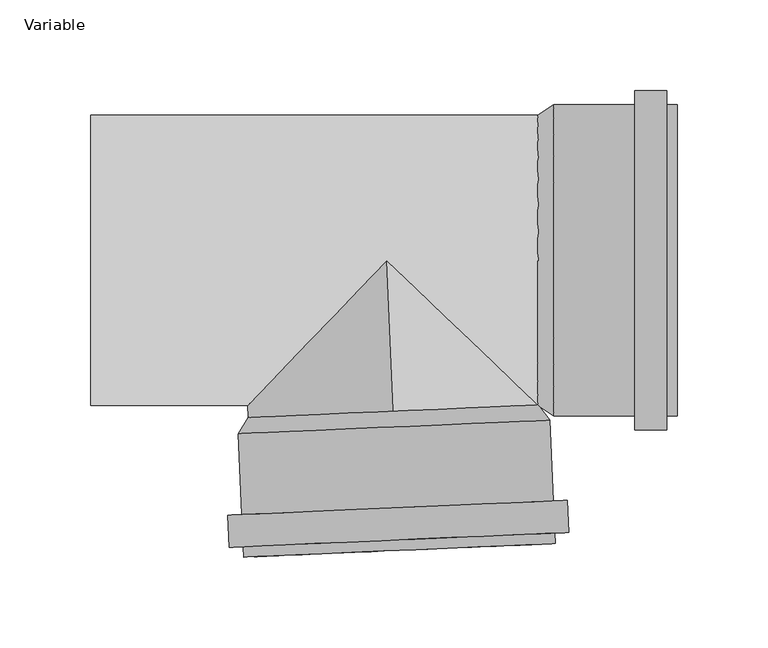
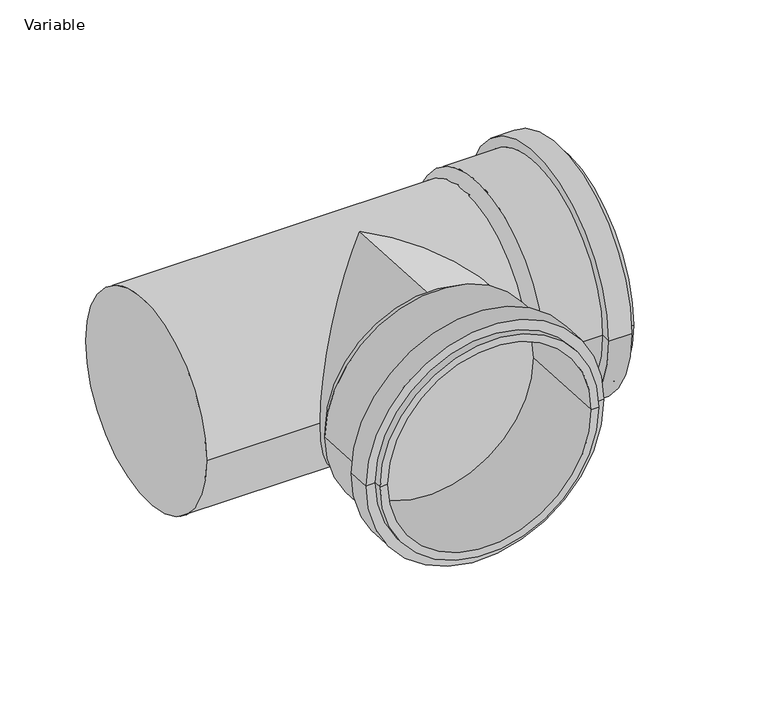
"""IFC4 building model written with IfcOpenShell, lengths in millimetres: pipe fitting geometry, AliaxisFR_Friaphon_Branch_FR : Variable."""

from ifc_helpers import new_model, si_unit, frame, origin, place, context, project, spatial, polyline, circle_curve, ellipse_curve, source, transform, mapped, element, save
from ifc_brep_helpers import plane_surface, cylinder_surface, revolved_surface, advanced_brep


def variable_c53f3fea(model_context):
    return source(origin(), model_context, "Body", "AdvancedBrep", [
        advanced_brep(
        [(-78.7392354, -163.5902589, 0.0), (92.6974394, -156.105172, 0.0), (86.9029597, -156.3581645, 0.0), (-72.9447557, -163.3372664, 0.0), (-87.4569623, -140.448495, 0.0), (99.3650551, -132.2916695, 0.0), (100.1371182, -149.974823, 0.0), (-86.6848992, -158.1316485, 0.0), (-79.764291, -140.1126257, 0.0), (91.6723838, -132.6275388, 0.0), (-81.7097157, -95.555075, 0.0), (89.7269591, -88.0699881, 0.0), (83.5529908, -79.631261, 0.0), (-76.2947247, -86.610363, 0.0), (-78.9922279, -157.7957792, 0.0), (92.4444469, -150.3106923, 0.0)],
        [
            (0, 1, circle_curve(frame((6.979102, -159.8477155, 0.0), z_axis=(0.04361938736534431, -0.9990482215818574, 0.0), x_axis=(0.9990482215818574, 0.04361938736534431, 0.0)), 85.8)),
            (1, 2),
            (2, 3, circle_curve(frame((6.979102, -159.8477155, 0.0), z_axis=(-0.04361938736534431, 0.9990482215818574, 0.0), x_axis=(0.9990482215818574, 0.04361938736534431, 0.0)), 80.0)),
            (3, 0),
            (1, 0, circle_curve(frame((6.979102, -159.8477155, 0.0), z_axis=(0.04361938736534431, -0.9990482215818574, 0.0), x_axis=(0.9990482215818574, 0.04361938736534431, 0.0)), 85.8)),
            (3, 2, circle_curve(frame((6.979102, -159.8477155, 0.0), z_axis=(-0.04361938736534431, 0.9990482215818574, 0.0), x_axis=(0.9990482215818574, 0.04361938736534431, 0.0)), 80.0)),
            (4, 5, circle_curve(frame((5.9540464, -136.3700822, 0.0), z_axis=(0.04361938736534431, -0.9990482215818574, 0.0), x_axis=(0.9990482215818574, 0.04361938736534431, 0.0)), 93.5)),
            (5, 6),
            (6, 7, circle_curve(frame((6.7261095, -154.0532358, 0.0), z_axis=(-0.04361938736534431, 0.9990482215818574, 0.0), x_axis=(0.9990482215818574, 0.04361938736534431, 0.0)), 93.5)),
            (7, 4),
            (5, 4, circle_curve(frame((5.9540464, -136.3700822, 0.0), z_axis=(0.04361938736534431, -0.9990482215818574, 0.0), x_axis=(0.9990482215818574, 0.04361938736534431, 0.0)), 93.5)),
            (7, 6, circle_curve(frame((6.7261095, -154.0532358, 0.0), z_axis=(-0.04361938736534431, 0.9990482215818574, 0.0), x_axis=(0.9990482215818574, 0.04361938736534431, 0.0)), 93.5)),
            (8, 9, circle_curve(frame((5.9540464, -136.3700822, 0.0), z_axis=(0.04361938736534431, -0.9990482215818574, 0.0), x_axis=(0.9990482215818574, 0.04361938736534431, 0.0)), 85.8)),
            (9, 5),
            (4, 8),
            (9, 8, circle_curve(frame((5.9540464, -136.3700822, 0.0), z_axis=(0.04361938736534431, -0.9990482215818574, 0.0), x_axis=(0.9990482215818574, 0.04361938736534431, 0.0)), 85.8)),
            (10, 11, circle_curve(frame((4.0086217, -91.8125316, 0.0), z_axis=(0.04361938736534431, -0.9990482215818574, 0.0), x_axis=(0.9990482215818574, 0.04361938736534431, 0.0)), 85.8)),
            (11, 9),
            (8, 10),
            (11, 10, circle_curve(frame((4.0086217, -91.8125316, 0.0), z_axis=(0.04361938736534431, -0.9990482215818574, 0.0), x_axis=(0.9990482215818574, 0.04361938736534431, 0.0)), 85.8)),
            (2, 12),
            (12, 13, circle_curve(frame((3.629133, -83.120812, 0.0), z_axis=(-0.04361938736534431, 0.9990482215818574, 0.0), x_axis=(0.9990482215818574, 0.04361938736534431, 0.0)), 80.0)),
            (13, 3),
            (13, 12, circle_curve(frame((3.629133, -83.120812, 0.0), z_axis=(-0.04361938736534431, 0.9990482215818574, 0.0), x_axis=(0.9990482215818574, 0.04361938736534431, 0.0)), 80.0)),
            (12, 11),
            (10, 13),
            (14, 15, circle_curve(frame((6.7261095, -154.0532358, 0.0), z_axis=(0.04361938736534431, -0.9990482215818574, 0.0), x_axis=(0.9990482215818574, 0.04361938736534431, 0.0)), 85.8)),
            (15, 1),
            (0, 14),
            (15, 14, circle_curve(frame((6.7261095, -154.0532358, 0.0), z_axis=(0.04361938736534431, -0.9990482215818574, 0.0), x_axis=(0.9990482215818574, 0.04361938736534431, 0.0)), 85.8)),
            (6, 15),
            (14, 7),
        ],
        [
            plane_surface(frame((6.979102, -159.8477155, 0.0), z_axis=(0.04361938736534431, -0.9990482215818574, 0.0), x_axis=(0.9990482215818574, 0.04361938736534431, 0.0))),
            cylinder_surface(frame((3.629133, -83.120812, 0.0), z_axis=(-0.04361938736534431, 0.9990482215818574, 0.0), x_axis=(0.9990482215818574, 0.04361938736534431, 0.0)), 93.5),
            plane_surface(frame((5.9540464, -136.3700822, 0.0), z_axis=(-0.04361938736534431, 0.9990482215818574, 0.0), x_axis=(0.9990482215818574, 0.04361938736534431, 0.0))),
            cylinder_surface(frame((3.629133, -83.120812, 0.0), z_axis=(-0.04361938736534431, 0.9990482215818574, 0.0), x_axis=(0.9990482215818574, 0.04361938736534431, 0.0)), 85.8),
            revolved_surface(polyline([(83.5529907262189, -79.63126100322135, 0.0), (86.90295967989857, -156.35816451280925, 0.0)]), (3.629133, -83.120812, 0.0), (-0.04361938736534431, 0.9990482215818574, 0.0)),
            revolved_surface(polyline([(89.7269591, -88.0699881, 0.0), (83.5529908, -79.631261, 0.0)]), (3.629133, -83.120812, 0.0), (-0.04361938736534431, 0.9990482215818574, 0.0)),
            plane_surface(frame((6.7261095, -154.0532358, 0.0), z_axis=(0.04361938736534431, -0.9990482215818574, 0.0), x_axis=(0.9990482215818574, 0.04361938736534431, 0.0))),
        ],
        [
            (0, [[1, 2, 3, 4]]),
            (0, [[5, -4, 6, -2]]),
            (1, [[7, 8, 9, 10]]),
            (1, [[11, -10, 12, -8]]),
            (2, [[13, 14, -7, 15]]),
            (2, [[16, -15, -11, -14]]),
            (3, [[17, 18, -13, 19]]),
            (3, [[20, -19, -16, -18]]),
            (4, [[-3, 21, 22, 23]]),
            (4, [[-6, -23, 24, -21]]),
            (5, [[-22, 25, -17, 26]]),
            (5, [[-24, -26, -20, -25]]),
            (3, [[27, 28, -1, 29]]),
            (3, [[30, -29, -5, -28]]),
            (6, [[-9, 31, -27, 32]]),
            (6, [[-12, -32, -30, -31]]),
        ],
    ),
        advanced_brep(
        [(160.0, -85.8, 0.0), (160.0, 85.8, 0.0), (160.0, 80.0, 0.0), (160.0, -80.0, 0.0), (136.5, -93.5, 0.0), (136.5, 93.5, 0.0), (154.2, 93.5, 0.0), (154.2, -93.5, 0.0), (136.5, -85.8, 0.0), (136.5, 85.8, 0.0), (91.9, -85.8, 0.0), (91.9, 85.8, 0.0), (83.2, 80.0, 0.0), (83.2, -80.0, 0.0), (154.2, -85.8, 0.0), (154.2, 85.8, 0.0)],
        [
            (0, 1, circle_curve(frame((160.0, 0.0, 0.0), z_axis=(1.0, 0.0, 0.0), x_axis=(0.0, 1.0, 0.0)), 85.8)),
            (1, 2),
            (2, 3, circle_curve(frame((160.0, 0.0, 0.0), z_axis=(-1.0, 0.0, 0.0), x_axis=(0.0, 1.0, 0.0)), 80.0)),
            (3, 0),
            (1, 0, circle_curve(frame((160.0, 0.0, 0.0), z_axis=(1.0, 0.0, 0.0), x_axis=(0.0, 1.0, 0.0)), 85.8)),
            (3, 2, circle_curve(frame((160.0, 0.0, 0.0), z_axis=(-1.0, 0.0, 0.0), x_axis=(0.0, 1.0, 0.0)), 80.0)),
            (4, 5, circle_curve(frame((136.5, 0.0, 0.0), z_axis=(1.0, 0.0, 0.0), x_axis=(0.0, 1.0, 0.0)), 93.5)),
            (5, 6),
            (6, 7, circle_curve(frame((154.2, 0.0, 0.0), z_axis=(-1.0, 0.0, 0.0), x_axis=(0.0, 1.0, 0.0)), 93.5)),
            (7, 4),
            (5, 4, circle_curve(frame((136.5, 0.0, 0.0), z_axis=(1.0, 0.0, 0.0), x_axis=(0.0, 1.0, 0.0)), 93.5)),
            (7, 6, circle_curve(frame((154.2, 0.0, 0.0), z_axis=(-1.0, 0.0, 0.0), x_axis=(0.0, 1.0, 0.0)), 93.5)),
            (8, 9, circle_curve(frame((136.5, 0.0, 0.0), z_axis=(1.0, 0.0, 0.0), x_axis=(0.0, 1.0, 0.0)), 85.8)),
            (9, 5),
            (4, 8),
            (9, 8, circle_curve(frame((136.5, 0.0, 0.0), z_axis=(1.0, 0.0, 0.0), x_axis=(0.0, 1.0, 0.0)), 85.8)),
            (10, 11, circle_curve(frame((91.9, 0.0, 0.0), z_axis=(1.0, 0.0, 0.0), x_axis=(0.0, 1.0, 0.0)), 85.8)),
            (11, 9),
            (8, 10),
            (11, 10, circle_curve(frame((91.9, 0.0, 0.0), z_axis=(1.0, 0.0, 0.0), x_axis=(0.0, 1.0, 0.0)), 85.8)),
            (2, 12),
            (12, 13, circle_curve(frame((83.2, 0.0, 0.0), z_axis=(-1.0, 0.0, 0.0), x_axis=(0.0, 1.0, 0.0)), 80.0)),
            (13, 3),
            (13, 12, circle_curve(frame((83.2, 0.0, 0.0), z_axis=(-1.0, 0.0, 0.0), x_axis=(0.0, 1.0, 0.0)), 80.0)),
            (12, 11),
            (10, 13),
            (14, 15, circle_curve(frame((154.2, 0.0, 0.0), z_axis=(1.0, 0.0, 0.0), x_axis=(0.0, 1.0, 0.0)), 85.8)),
            (15, 1),
            (0, 14),
            (15, 14, circle_curve(frame((154.2, 0.0, 0.0), z_axis=(1.0, 0.0, 0.0), x_axis=(0.0, 1.0, 0.0)), 85.8)),
            (6, 15),
            (14, 7),
        ],
        [
            plane_surface(frame((160.0, 0.0, 0.0), z_axis=(1.0, 0.0, 0.0), x_axis=(0.0, 1.0, 0.0))),
            cylinder_surface(frame((83.2, 0.0, 0.0), z_axis=(-1.0, 0.0, 0.0), x_axis=(0.0, 1.0, 0.0)), 93.5),
            plane_surface(frame((136.5, 0.0, 0.0), z_axis=(-1.0, 0.0, 0.0), x_axis=(0.0, 1.0, 0.0))),
            cylinder_surface(frame((83.2, 0.0, 0.0), z_axis=(-1.0, 0.0, 0.0), x_axis=(0.0, 1.0, 0.0)), 85.8),
            revolved_surface(polyline([(83.2, 80.0, 0.0), (160.0, 80.0, 0.0)]), (83.2, 0.0, 0.0), (-1.0, 0.0, 0.0)),
            revolved_surface(polyline([(91.9, 85.8, 0.0), (83.2, 80.0, 0.0)]), (83.2, 0.0, 0.0), (-1.0, 0.0, 0.0)),
            plane_surface(frame((154.2, 0.0, 0.0), z_axis=(1.0, 0.0, 0.0), x_axis=(0.0, 1.0, 0.0))),
        ],
        [
            (0, [[1, 2, 3, 4]]),
            (0, [[5, -4, 6, -2]]),
            (1, [[7, 8, 9, 10]]),
            (1, [[11, -10, 12, -8]]),
            (2, [[13, 14, -7, 15]]),
            (2, [[16, -15, -11, -14]]),
            (3, [[17, 18, -13, 19]]),
            (3, [[20, -19, -16, -18]]),
            (4, [[-3, 21, 22, 23]]),
            (4, [[-6, -23, 24, -21]]),
            (5, [[-22, 25, -17, 26]]),
            (5, [[-24, -26, -20, -25]]),
            (3, [[27, 28, -1, 29]]),
            (3, [[30, -29, -5, -28]]),
            (6, [[-9, 31, -27, 32]]),
            (6, [[-12, -32, -30, -31]]),
        ],
    ),
        advanced_brep(
        [(89.0, -80.0, 0.0), (89.0, 80.0, 0.0), (-163.0, -80.0, 0.0), (-163.0, 80.0, 0.0), (83.5690902, -80.0, 0.0), (0.0, 0.0, -80.0), (-76.5833394, -80.0, 0.0), (0.0, 0.0, 80.0), (3.8821255, -88.9152917, -80.0), (3.8821255, -88.9152917, 80.0)],
        [
            (0, 1, circle_curve(frame((89.0, 0.0, 0.0), z_axis=(1.0, 0.0, 0.0), x_axis=(0.0, 1.0, 0.0)), 80.0)),
            (1, 0, circle_curve(frame((89.0, 0.0, 0.0), z_axis=(1.0, 0.0, 0.0), x_axis=(0.0, 1.0, 0.0)), 80.0)),
            (2, 3, circle_curve(frame((-163.0, 0.0, 0.0), z_axis=(-1.0, 0.0, 0.0), x_axis=(0.0, 1.0, 0.0)), 80.0)),
            (3, 2, circle_curve(frame((-163.0, 0.0, 0.0), z_axis=(-1.0, 0.0, 0.0), x_axis=(0.0, 1.0, 0.0)), 80.0)),
            (0, 4),
            (4, 5, ellipse_curve(frame((0.0, 0.0, 0.0), z_axis=(0.6915130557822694, 0.7223639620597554, 0.0), x_axis=(0.7223639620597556, -0.6915130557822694, 0.0)), 115.6883436, 80.0)),
            (5, 6, ellipse_curve(frame((0.0, 0.0, 0.0), z_axis=(-0.7223639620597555, 0.6915130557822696, 0.0), x_axis=(0.6915130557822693, 0.7223639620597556, 0.0)), 110.747496, 80.0)),
            (6, 2),
            (3, 1),
            (6, 7, ellipse_curve(frame((0.0, 0.0, 0.0), z_axis=(-0.7223639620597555, 0.6915130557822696, 0.0), x_axis=(0.6915130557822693, 0.7223639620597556, 0.0)), 110.747496, 80.0)),
            (7, 4, ellipse_curve(frame((0.0, 0.0, 0.0), z_axis=(0.6915130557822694, 0.7223639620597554, 0.0), x_axis=(0.7223639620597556, -0.6915130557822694, 0.0)), 115.6883436, 80.0)),
            (8, 9, circle_curve(frame((3.8821255, -88.9152917, 0.0), z_axis=(0.043619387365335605, -0.9990482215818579, 0.0), x_axis=(0.0, 0.0, 1.0)), 80.0)),
            (9, 8, circle_curve(frame((3.8821255, -88.9152917, 0.0), z_axis=(0.043619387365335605, -0.9990482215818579, 0.0), x_axis=(0.0, 0.0, 1.0)), 80.0)),
            (8, 5),
            (7, 9),
        ],
        [
            plane_surface(frame((89.0, 80.0, 0.0), z_axis=(1.0, 0.0, 0.0), x_axis=(0.0, 0.0, 1.0))),
            plane_surface(frame((-163.0, 80.0, 0.0), z_axis=(-1.0, 0.0, 0.0), x_axis=(0.0, 0.0, -1.0))),
            cylinder_surface(frame((-163.0, 0.0, 0.0), z_axis=(1.0, 0.0, 0.0), x_axis=(0.0, 1.0, 0.0)), 80.0),
            plane_surface(frame((3.8821255, -88.9152917, 80.0), z_axis=(0.04361938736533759, -0.9990482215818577, 0.0), x_axis=(-0.9990482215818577, -0.04361938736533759, 0.0))),
            cylinder_surface(frame((3.8821255, -88.9152917, 0.0), z_axis=(-0.043619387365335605, 0.9990482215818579, 0.0), x_axis=(0.0, 0.0, 1.0)), 80.0),
        ],
        [
            (0, [[1, 2]]),
            (1, [[3, 4]]),
            (2, [[-1, 5, 6, 7, 8, -4, 9]]),
            (2, [[-2, -9, -3, -8, 10, 11, -5]]),
            (3, [[12, 13]]),
            (4, [[-12, 14, -6, -11, 15]]),
            (4, [[-13, -15, -10, -7, -14]]),
        ],
    ),
    ])


if __name__ == "__main__":
    model = new_model("IFC4")
    model_context = context("Model", 3, world=origin())
    ifc_project = project(units=[si_unit("LENGTHUNIT", "METRE", prefix="MILLI")], contexts=[model_context])
    site = spatial("IfcSite", under=ifc_project)
    building = spatial("IfcBuilding", under=site)
    placement = place(None, origin())
    variable_shape = variable_c53f3fea(model_context)
    element("IfcPipeFitting", 1, ObjectType="AliaxisFR_Friaphon_Branch_FR : Variable", at=placement, inside=building, context=model_context, shape_type="MappedRepresentation", body=[
        mapped(variable_shape, transform((0.0, 0.0, 0.0), x_axis=(1.0, 0.0, 0.0), y_axis=(0.0, 1.0, 0.0), z_axis=(0.0, 0.0, 1.0))),
    ])
    save(model, "model.ifc")
